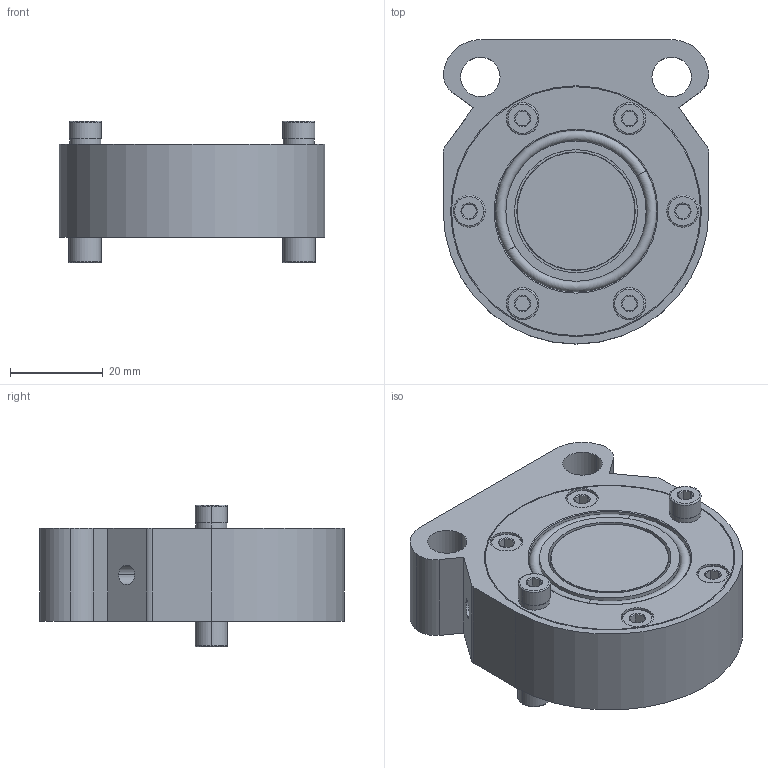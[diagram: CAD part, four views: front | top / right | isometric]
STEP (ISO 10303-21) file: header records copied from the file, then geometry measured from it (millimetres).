
FILE_DESCRIPTION (( 'STEP AP203' ), '1' );
FILE_NAME ('Friction Module R1.STEP', '2013-02-23T12:46:28', ( 'OS' ), ( 'Microsoft' ), 'SwSTEP 2.0', 'SolidWorks 2012', '' );
FILE_SCHEMA (( 'CONFIG_CONTROL_DESIGN' ));
Length unit declared in the file: millimetre
Products named in the file (14): Friction Module R1; 90010001 Slotted screw M4 x 4; 90006002 Antirotation Pin Ø7; 90010003 Unbraco M4 x 25; 90010002 Unbraco M4 x 15; 90006005 Piston Ø30 M4; 90006010 Rolling Diaphragm Class 4_1.37_1.19_0.56; 90006004 Flat Spring Ø38 x 0,5; 90006003 Disc 1,0; 90010014 Washer Ø6,7 x  Ø4,3 x 1,2; 90090001 Magnet Ø25,5 x 3,2; 90006006 Housing Ring Head side Ø54; 90006007 Housing Ring Thread side Ø54; 90006020 Housing Ø58 x 20
Assembly tree (25 placements, depth 2):
  Friction Module R1
    90006020 Housing Ø58 x 20
    90006007 Housing Ring Thread side Ø54
    90006006 Housing Ring Head side Ø54
    90090001 Magnet Ø25,5 x 3,2  x2
    90010014 Washer Ø6,7 x  Ø4,3 x 1,2  x2
    90006003 Disc 1,0  x2
    90006004 Flat Spring Ø38 x 0,5  x2
    90006010 Rolling Diaphragm Class 4_1.37_1.19_0.56  x2
    90006005 Piston Ø30 M4  x2
    90010002 Unbraco M4 x 15  x4
    90010003 Unbraco M4 x 25  x2
    90006002 Antirotation Pin Ø7  x2
    90010001 Slotted screw M4 x 4  x2
Bounding box: 57.2 x 65.5 x 30.5 mm (x, y, z)
Volume: 55465.5 mm3; surface area: 52924.2 mm2
Topology: 25 solids, 25 shells, 457 faces, 1041 edges, 660 vertices
Faces by surface type: cylinder 215, plane 136, torus 60, cone 36, bspline 10
Entity records: 11487 total; most frequent: CARTESIAN_POINT 3112, DIRECTION 1501, ORIENTED_EDGE 1270, EDGE_CURVE 635, AXIS2_PLACEMENT_3D 634, VERTEX_POINT 406, EDGE_LOOP 361, CIRCLE 343
